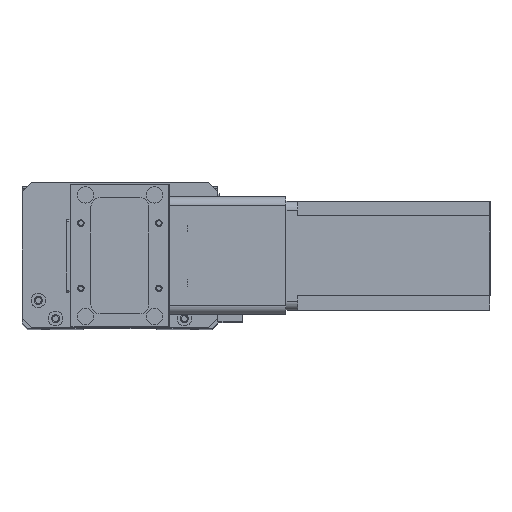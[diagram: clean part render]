
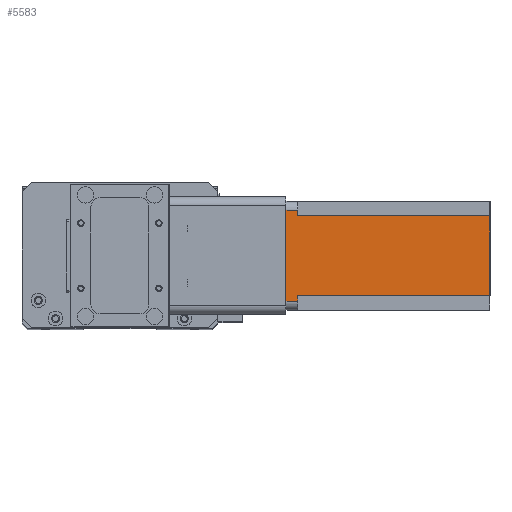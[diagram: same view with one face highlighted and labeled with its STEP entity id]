
A CAD part, top view. The second image highlights one B-rep face of the part: STEP entity #5583.
In plain terms, the highlighted planar face has unit normal (0, 0, 1) as drawn and (0, 1, 0) by its records, which use the part's own axes.
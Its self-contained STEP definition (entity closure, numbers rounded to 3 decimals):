
#6 = VECTOR ( 'NONE', #24145, 1000. ) ;
#530 = VECTOR ( 'NONE', #20403, 1000. ) ;
#1073 = CARTESIAN_POINT ( 'NONE',  ( 5., 60., -112.5 ) ) ;
#1613 = CARTESIAN_POINT ( 'NONE',  ( 52., 60., -6.5 ) ) ;
#4419 = VECTOR ( 'NONE', #11153, 1000. ) ;
#4646 = LINE ( 'NONE', #5428, #15555 ) ;
#5013 = CARTESIAN_POINT ( 'NONE',  ( 0., 60., 0. ) ) ;
#5074 = LINE ( 'NONE', #8805, #530 ) ;
#5138 = CARTESIAN_POINT ( 'NONE',  ( 8., 60., -112.5 ) ) ;
#5428 = CARTESIAN_POINT ( 'NONE',  ( 0., 60., -112.5 ) ) ;
#5455 = VERTEX_POINT ( 'NONE', #7976 ) ;
#5583 = ADVANCED_FACE ( 'NONE', ( #21848 ), #19898, .T. ) ;
#5701 = EDGE_CURVE ( 'NONE', #6000, #8423, #14871, .T. ) ;
#6000 = VERTEX_POINT ( 'NONE', #7771 ) ;
#7174 = LINE ( 'NONE', #8776, #7776 ) ;
#7771 = CARTESIAN_POINT ( 'NONE',  ( 5., 60., -6.5 ) ) ;
#7776 = VECTOR ( 'NONE', #22318, 1000. ) ;
#7976 = CARTESIAN_POINT ( 'NONE',  ( 55., 60., 0. ) ) ;
#8161 = ORIENTED_EDGE ( 'NONE', *, *, #22338, .F. ) ;
#8423 = VERTEX_POINT ( 'NONE', #13611 ) ;
#8776 = CARTESIAN_POINT ( 'NONE',  ( 52., 60., -6.5 ) ) ;
#8805 = CARTESIAN_POINT ( 'NONE',  ( 8., 60., -6.5 ) ) ;
#10004 = AXIS2_PLACEMENT_3D ( 'NONE', #18056, #10344, #23888 ) ;
#10344 = DIRECTION ( 'NONE',  ( 0., 1., 0. ) ) ;
#10571 = ORIENTED_EDGE ( 'NONE', *, *, #19019, .F. ) ;
#10810 = LINE ( 'NONE', #12003, #21089 ) ;
#10894 = ORIENTED_EDGE ( 'NONE', *, *, #15364, .F. ) ;
#11153 = DIRECTION ( 'NONE',  ( 0., 0., 1. ) ) ;
#11244 = CARTESIAN_POINT ( 'NONE',  ( 52., 60., -112.5 ) ) ;
#12003 = CARTESIAN_POINT ( 'NONE',  ( 55., 60., -112.5 ) ) ;
#12593 = ORIENTED_EDGE ( 'NONE', *, *, #20502, .T. ) ;
#12657 = VERTEX_POINT ( 'NONE', #1613 ) ;
#12696 = LINE ( 'NONE', #5013, #22996 ) ;
#13336 = LINE ( 'NONE', #16848, #17889 ) ;
#13611 = CARTESIAN_POINT ( 'NONE',  ( 5., 60., 0. ) ) ;
#14144 = EDGE_CURVE ( 'NONE', #5455, #8423, #12696, .T. ) ;
#14503 = ORIENTED_EDGE ( 'NONE', *, *, #5701, .T. ) ;
#14756 = EDGE_CURVE ( 'NONE', #24394, #6000, #5074, .T. ) ;
#14821 = EDGE_LOOP ( 'NONE', ( #19380, #21102, #10894, #10571, #12593, #8161, #19963, #14503 ) ) ;
#14871 = LINE ( 'NONE', #1073, #6 ) ;
#15077 = VERTEX_POINT ( 'NONE', #15477 ) ;
#15187 = EDGE_CURVE ( 'NONE', #5455, #18152, #10810, .T. ) ;
#15364 = EDGE_CURVE ( 'NONE', #12657, #18152, #7174, .T. ) ;
#15477 = CARTESIAN_POINT ( 'NONE',  ( 52., 60., -112.5 ) ) ;
#15555 = VECTOR ( 'NONE', #17027, 1000. ) ;
#16848 = CARTESIAN_POINT ( 'NONE',  ( 8., 60., -112.5 ) ) ;
#17027 = DIRECTION ( 'NONE',  ( -1., 0., 0. ) ) ;
#17889 = VECTOR ( 'NONE', #22602, 1000. ) ;
#18056 = CARTESIAN_POINT ( 'NONE',  ( 0., 60., -112.5 ) ) ;
#18152 = VERTEX_POINT ( 'NONE', #20423 ) ;
#19019 = EDGE_CURVE ( 'NONE', #15077, #12657, #19257, .T. ) ;
#19243 = VERTEX_POINT ( 'NONE', #5138 ) ;
#19257 = LINE ( 'NONE', #11244, #4419 ) ;
#19380 = ORIENTED_EDGE ( 'NONE', *, *, #14144, .F. ) ;
#19631 = CARTESIAN_POINT ( 'NONE',  ( 8., 60., -6.5 ) ) ;
#19898 = PLANE ( 'NONE',  #10004 ) ;
#19963 = ORIENTED_EDGE ( 'NONE', *, *, #14756, .T. ) ;
#20403 = DIRECTION ( 'NONE',  ( -1., 0., 0. ) ) ;
#20423 = CARTESIAN_POINT ( 'NONE',  ( 55., 60., -6.5 ) ) ;
#20501 = DIRECTION ( 'NONE',  ( -1., 0., 0. ) ) ;
#20502 = EDGE_CURVE ( 'NONE', #15077, #19243, #4646, .T. ) ;
#21089 = VECTOR ( 'NONE', #21658, 1000. ) ;
#21102 = ORIENTED_EDGE ( 'NONE', *, *, #15187, .T. ) ;
#21658 = DIRECTION ( 'NONE',  ( 0., 0., -1. ) ) ;
#21848 = FACE_OUTER_BOUND ( 'NONE', #14821, .T. ) ;
#22318 = DIRECTION ( 'NONE',  ( 1., 0., 0. ) ) ;
#22338 = EDGE_CURVE ( 'NONE', #24394, #19243, #13336, .T. ) ;
#22602 = DIRECTION ( 'NONE',  ( 0., 0., -1. ) ) ;
#22996 = VECTOR ( 'NONE', #20501, 1000. ) ;
#23888 = DIRECTION ( 'NONE',  ( 0., 0., 1. ) ) ;
#24145 = DIRECTION ( 'NONE',  ( 0., 0., 1. ) ) ;
#24394 = VERTEX_POINT ( 'NONE', #19631 ) ;
